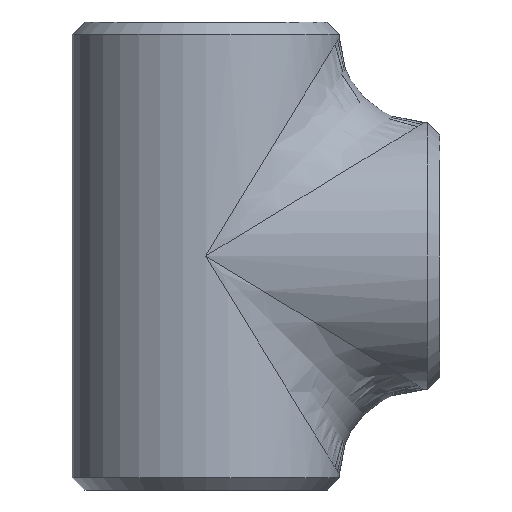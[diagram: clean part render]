
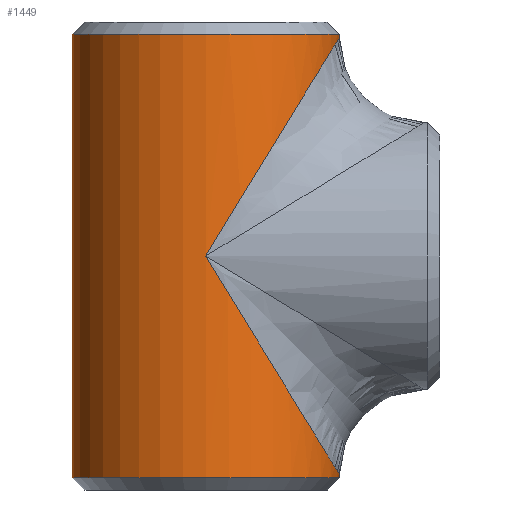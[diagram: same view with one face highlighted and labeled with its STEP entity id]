
A CAD part, front view. The second image highlights one B-rep face of the part: STEP entity #1449.
In plain terms, the highlighted cylindrical face has radius 70.65 mm (diameter 141.3 mm), a partial arc.
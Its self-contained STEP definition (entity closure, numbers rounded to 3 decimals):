
#16 = ORIENTED_EDGE ( 'NONE', *, *, #545, .T. ) ;
#49 = CARTESIAN_POINT ( 'NONE',  ( 70.65, 0., -115.65 ) ) ;
#54 = ORIENTED_EDGE ( 'NONE', *, *, #704, .F. ) ;
#74 = CARTESIAN_POINT ( 'NONE',  ( 70.65, 0., 123.8 ) ) ;
#78 = VERTEX_POINT ( 'NONE', #1282 ) ;
#83 = EDGE_CURVE ( 'NONE', #950, #420, #735, .T. ) ;
#85 = CARTESIAN_POINT ( 'NONE',  ( 70.65, 0., -117.3 ) ) ;
#131 = CIRCLE ( 'NONE', #906, 70.65 ) ;
#231 = CARTESIAN_POINT ( 'NONE',  ( 70.65, 0., 123.8 ) ) ;
#237 = AXIS2_PLACEMENT_3D ( 'NONE', #1106, #1214, #1219 ) ;
#239 = FACE_OUTER_BOUND ( 'NONE', #621, .T. ) ;
#252 = VECTOR ( 'NONE', #1425, 1000. ) ;
#285 = ORIENTED_EDGE ( 'NONE', *, *, #1122, .T. ) ;
#312 = CARTESIAN_POINT ( 'NONE',  ( 0., -70.65, 0. ) ) ;
#346 = CARTESIAN_POINT ( 'NONE',  ( -70.65, 0., 117.3 ) ) ;
#350 = EDGE_CURVE ( 'NONE', #842, #1394, #131, .T. ) ;
#420 = VERTEX_POINT ( 'NONE', #85 ) ;
#453 = DIRECTION ( 'NONE',  ( 0., 0., -1. ) ) ;
#510 = CARTESIAN_POINT ( 'NONE',  ( 70.65, -41.386, -115.65 ) ) ;
#539 = CARTESIAN_POINT ( 'NONE',  ( 70.65, 0., 115.65 ) ) ;
#545 = EDGE_CURVE ( 'NONE', #595, #1404, #1035, .T. ) ;
#561 = EDGE_CURVE ( 'NONE', #950, #595, #798, .T. ) ;
#564 = CARTESIAN_POINT ( 'NONE',  ( 70.65, 0., 117.3 ) ) ;
#584 = CARTESIAN_POINT ( 'NONE',  ( 0., 0., 117.3 ) ) ;
#595 = VERTEX_POINT ( 'NONE', #312 ) ;
#604 = ORIENTED_EDGE ( 'NONE', *, *, #350, .T. ) ;
#621 = EDGE_LOOP ( 'NONE', ( #54, #604, #705, #285, #827, #1081, #16 ) ) ;
#653 = CARTESIAN_POINT ( 'NONE',  ( -70.65, 0., 123.8 ) ) ;
#680 = CYLINDRICAL_SURFACE ( 'NONE', #237, 70.65 ) ;
#704 = EDGE_CURVE ( 'NONE', #842, #1404, #883, .T. ) ;
#705 = ORIENTED_EDGE ( 'NONE', *, *, #970, .T. ) ;
#735 = LINE ( 'NONE', #74, #252 ) ;
#737 = CARTESIAN_POINT ( 'NONE',  ( 41.386, -70.65, 67.746 ) ) ;
#781 = CIRCLE ( 'NONE', #1031, 70.65 ) ;
#783 = CARTESIAN_POINT ( 'NONE',  ( 70.65, 0., 115.65 ) ) ;
#798 =( BOUNDED_CURVE ( )  B_SPLINE_CURVE ( 3, ( #49, #510, #945, #1284 ),
 .UNSPECIFIED., .F., .F. ) 
 B_SPLINE_CURVE_WITH_KNOTS ( ( 4, 4 ),
 ( 3.142, 4.712 ),
 .UNSPECIFIED. ) 
 CURVE ( )  GEOMETRIC_REPRESENTATION_ITEM ( )  RATIONAL_B_SPLINE_CURVE ( ( 1., 0.805, 0.805, 1. ) ) 
 REPRESENTATION_ITEM ( '' )  );
#827 = ORIENTED_EDGE ( 'NONE', *, *, #83, .F. ) ;
#842 = VERTEX_POINT ( 'NONE', #564 ) ;
#883 = LINE ( 'NONE', #231, #1344 ) ;
#894 = CARTESIAN_POINT ( 'NONE',  ( 70.65, 0., -115.65 ) ) ;
#906 = AXIS2_PLACEMENT_3D ( 'NONE', #584, #924, #1026 ) ;
#924 = DIRECTION ( 'NONE',  ( 0., 0., -1. ) ) ;
#945 = CARTESIAN_POINT ( 'NONE',  ( 41.386, -70.65, -67.746 ) ) ;
#950 = VERTEX_POINT ( 'NONE', #894 ) ;
#970 = EDGE_CURVE ( 'NONE', #1394, #78, #1435, .T. ) ;
#1022 = DIRECTION ( 'NONE',  ( 1., 0., 0. ) ) ;
#1026 = DIRECTION ( 'NONE',  ( 1., 0., 0. ) ) ;
#1031 = AXIS2_PLACEMENT_3D ( 'NONE', #1146, #1378, #1022 ) ;
#1035 =( BOUNDED_CURVE ( )  B_SPLINE_CURVE ( 3, ( #1055, #737, #1076, #539 ),
 .UNSPECIFIED., .F., .F. ) 
 B_SPLINE_CURVE_WITH_KNOTS ( ( 4, 4 ),
 ( 1.571, 3.142 ),
 .UNSPECIFIED. ) 
 CURVE ( )  GEOMETRIC_REPRESENTATION_ITEM ( )  RATIONAL_B_SPLINE_CURVE ( ( 1., 0.805, 0.805, 1. ) ) 
 REPRESENTATION_ITEM ( '' )  );
#1055 = CARTESIAN_POINT ( 'NONE',  ( 0., -70.65, 0. ) ) ;
#1076 = CARTESIAN_POINT ( 'NONE',  ( 70.65, -41.386, 115.65 ) ) ;
#1081 = ORIENTED_EDGE ( 'NONE', *, *, #561, .T. ) ;
#1106 = CARTESIAN_POINT ( 'NONE',  ( 0., 0., 123.8 ) ) ;
#1122 = EDGE_CURVE ( 'NONE', #78, #420, #781, .T. ) ;
#1146 = CARTESIAN_POINT ( 'NONE',  ( 0., 0., -117.3 ) ) ;
#1214 = DIRECTION ( 'NONE',  ( 0., 0., -1. ) ) ;
#1219 = DIRECTION ( 'NONE',  ( -1., 0., 0. ) ) ;
#1282 = CARTESIAN_POINT ( 'NONE',  ( -70.65, 0., -117.3 ) ) ;
#1284 = CARTESIAN_POINT ( 'NONE',  ( 0., -70.65, 0. ) ) ;
#1305 = VECTOR ( 'NONE', #453, 1000. ) ;
#1333 = DIRECTION ( 'NONE',  ( 0., 0., -1. ) ) ;
#1344 = VECTOR ( 'NONE', #1333, 1000. ) ;
#1378 = DIRECTION ( 'NONE',  ( 0., 0., 1. ) ) ;
#1394 = VERTEX_POINT ( 'NONE', #346 ) ;
#1404 = VERTEX_POINT ( 'NONE', #783 ) ;
#1425 = DIRECTION ( 'NONE',  ( 0., 0., -1. ) ) ;
#1435 = LINE ( 'NONE', #653, #1305 ) ;
#1449 = ADVANCED_FACE ( 'NONE', ( #239 ), #680, .T. ) ;
